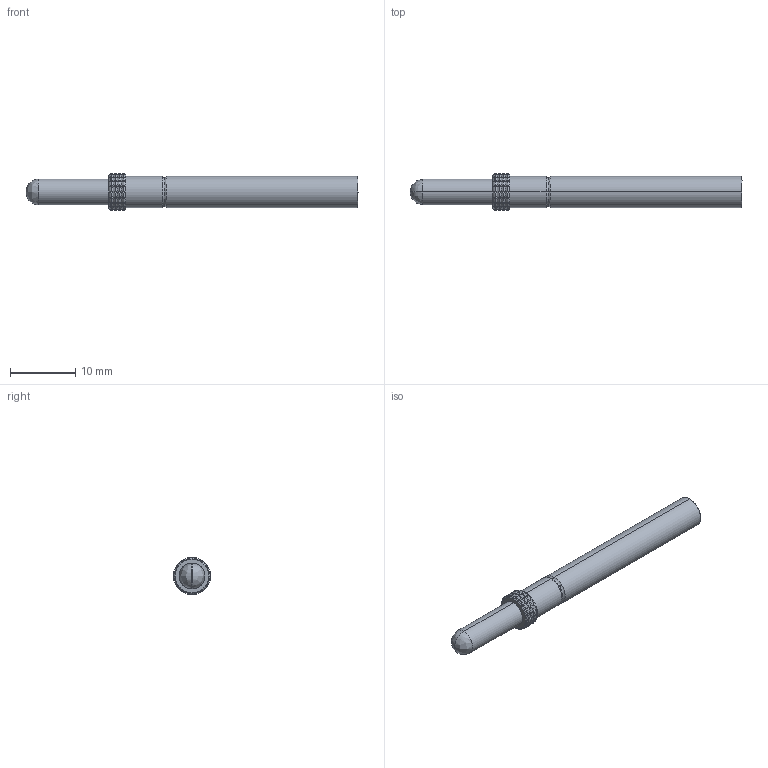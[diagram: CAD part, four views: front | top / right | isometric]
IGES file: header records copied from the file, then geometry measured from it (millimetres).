
Start section: SolidWorks IGES file using analytic representation for surfaces
Global section: file name: O:\PYLON\IGES FILES\P4301\P4301-2R.IGS; native system: SolidWorks 2015; preprocessor: SolidWorks 2015; author: kgolden; date: 171020.124442; units: inch
Bounding box: 50.8 x 5.7 x 5.7 mm (x, y, z)
Surface area: 1376.8 mm2 (no closed solid volume)
Topology: 0 solids, 0 shells, 374 faces, 1965 edges, 1965 vertices
Faces by surface type: revolution 193, bspline 181
